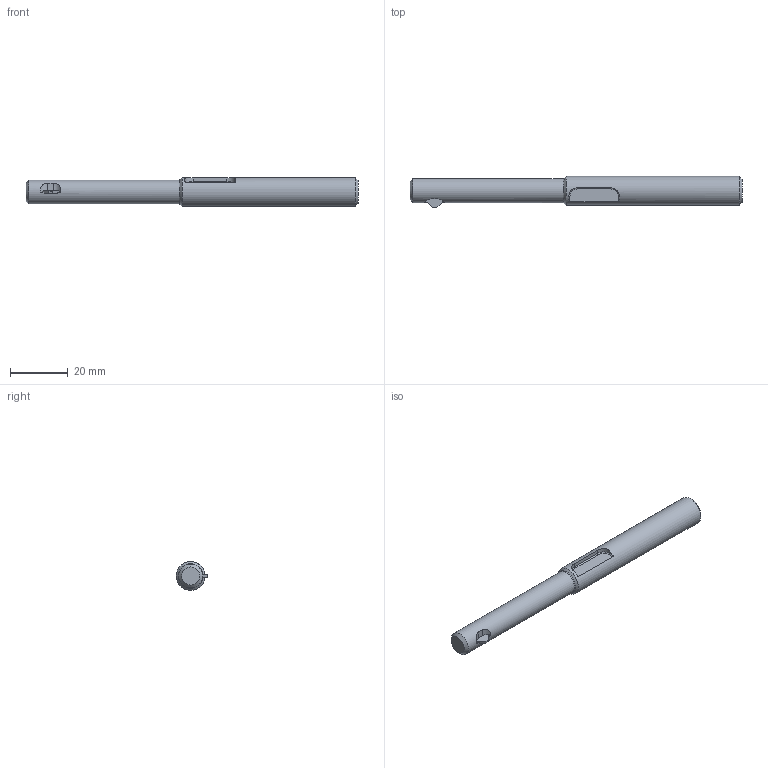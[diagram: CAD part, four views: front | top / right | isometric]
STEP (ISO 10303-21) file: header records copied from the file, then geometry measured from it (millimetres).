
FILE_DESCRIPTION(/* description */ (''),/* implementation_level */ '2;1');
FILE_NAME(/* name */ 'X:\EDF\EDF-OPEN\EDF-865\מודל מעודכן\U burr\קבצי STEP\Ass-Uburr Ø8.5mm_Simplify_1.stp',/* time_stamp */ '2023-03-05T10:53:48+02:00',/* author */ ('adva'),/* organization */ (''),/* preprocessor_version */ 'ST-DEVELOPER v18.1',/* originating_system */ 'Autodesk Inventor 2022',/* authorisation */ '');
FILE_SCHEMA (('CONFIG_CONTROL_DESIGN'));
Length unit declared in the file: millimetre
Products named in the file (1): Ass-Uburr Ø8.5mm_Simplify_1
Bounding box: 115 x 10.89 x 10 mm (x, y, z)
Volume: 7580 mm3; surface area: 3476.5 mm2
Topology: 1 solids, 1 shells, 32 faces, 79 edges, 51 vertices
Faces by surface type: plane 16, cylinder 10, torus 3, cone 3
Full cylindrical faces by diameter (mm): 8.3 x1, 10 x1
Entity records: 1083 total; most frequent: CARTESIAN_POINT 227, DIRECTION 167, ORIENTED_EDGE 158, EDGE_CURVE 79, AXIS2_PLACEMENT_3D 63, VERTEX_POINT 51, LINE 41, VECTOR 41
